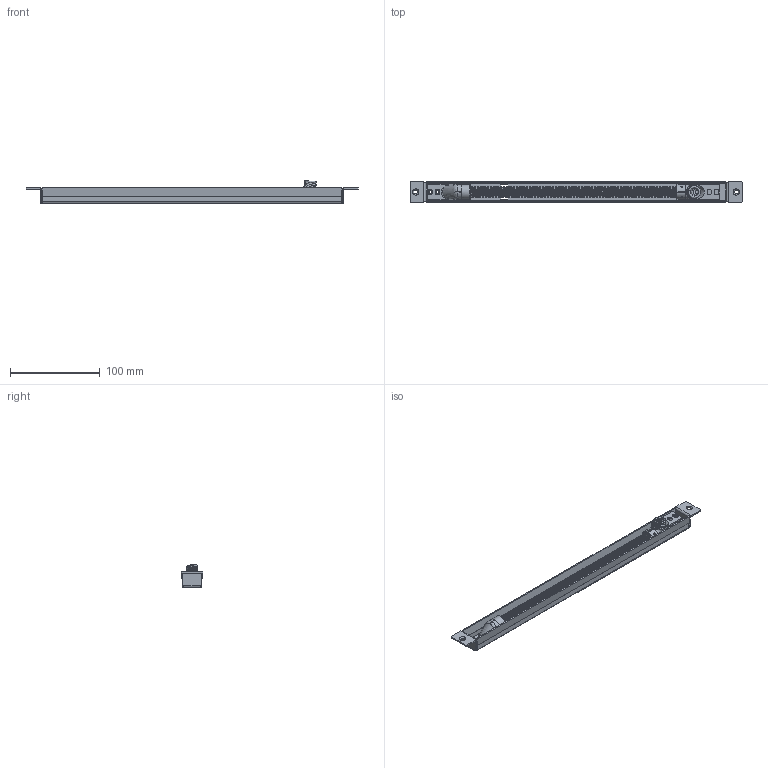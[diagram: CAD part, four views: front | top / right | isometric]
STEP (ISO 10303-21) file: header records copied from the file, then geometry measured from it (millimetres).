
FILE_DESCRIPTION((''),'2;1');
FILE_NAME('S:\Projekte\00 00 Datenarchiv\00.50- Kabelübergänge\Endprodukt\M 11 15\M_11_15.stp','2012-02-23T08:03:51',('jsuarez'),(''),'Autodesk Inventor 2012','Autodesk Inventor 2012','');
FILE_SCHEMA(('AUTOMOTIVE_DESIGN { 1 0 10303 214 1 1 1 1 }'));
Length unit declared in the file: millimetre
Products named in the file (1): M_11_15
Bounding box: 370 x 24 x 25.62 mm (x, y, z)
Volume: 44511.9 mm3; surface area: 75371.1 mm2
Topology: 2 solids, 2 shells, 285 faces, 854 edges, 527 vertices
Faces by surface type: plane 114, cylinder 76, bspline 68, cone 14, sphere 6, revolution 5, torus 2
Full cylindrical faces by diameter (mm): 2 x2, 3.242 x2, 4.5 x2, 4.7 x2
Entity records: 31754 total; most frequent: CARTESIAN_POINT 24605, ORIENTED_EDGE 1626, DIRECTION 1093, EDGE_CURVE 813, VERTEX_POINT 506, AXIS2_PLACEMENT_3D 399, EDGE_LOOP 352, B_SPLINE_CURVE_WITH_KNOTS 336
